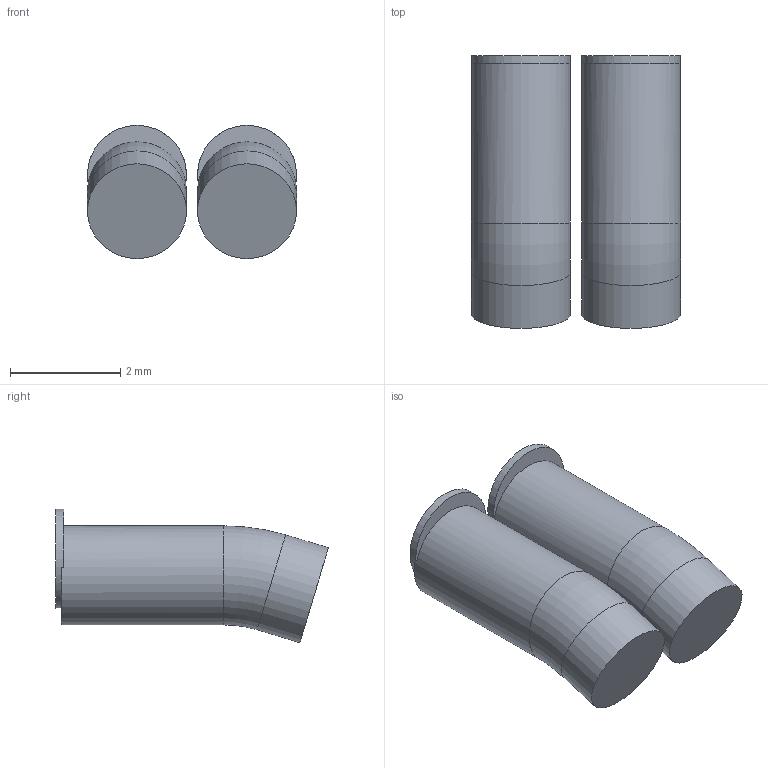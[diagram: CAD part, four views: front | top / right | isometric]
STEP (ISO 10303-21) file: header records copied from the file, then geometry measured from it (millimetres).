
FILE_DESCRIPTION(('Open CASCADE Model'),'2;1');
FILE_NAME('Open CASCADE Shape Model','2026-09-15T15:02:27',('Author'),( 'Open CASCADE'),'Open CASCADE STEP processor 7.7','Open CASCADE 7.7' ,'Unknown');
FILE_SCHEMA(('AUTOMOTIVE_DESIGN { 1 0 10303 214 1 1 1 1 }'));
Length unit declared in the file: millimetre
Products named in the file (1): R36_ADAPTER_CORRECTED_TAIL_AND_PAD_INSULATION_FINAL
Bounding box: 3.8 x 4.96 x 2.42 mm (x, y, z)
Volume: 24.2 mm3; surface area: 66.1 mm2
Topology: 2 solids, 2 shells, 16 faces, 32 edges, 20 vertices
Faces by surface type: plane 8, cylinder 6, torus 2
Full cylindrical faces by diameter (mm): 1.8 x6
Entity records: 832 total; most frequent: CARTESIAN_POINT 151, DIRECTION 134, ORIENTED_EDGE 64, PCURVE 64, DEFINITIONAL_REPRESENTATION 64, LINE 40, VECTOR 40, AXIS2_PLACEMENT_3D 39
